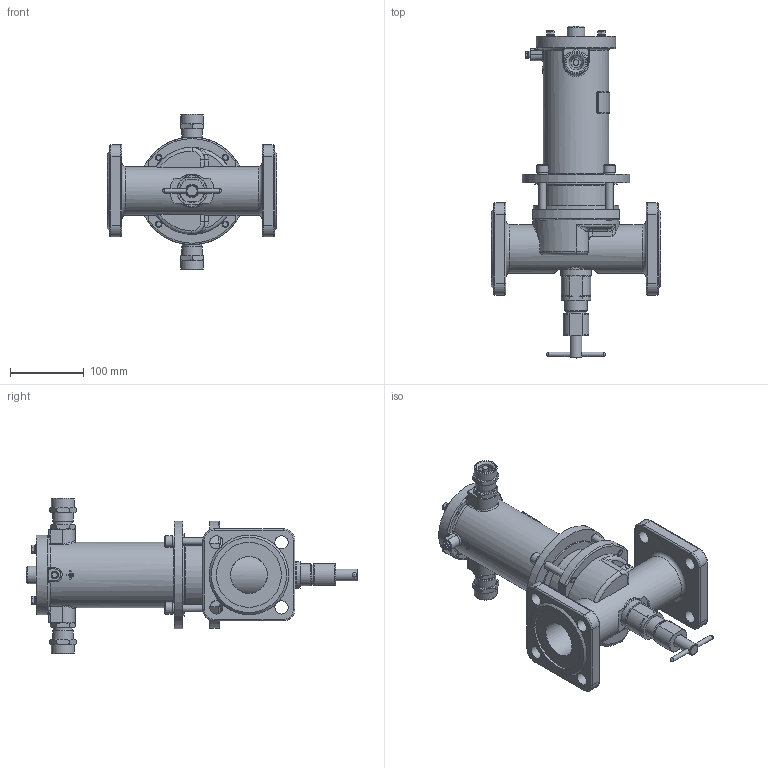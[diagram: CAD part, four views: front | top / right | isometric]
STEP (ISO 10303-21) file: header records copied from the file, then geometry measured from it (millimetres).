
FILE_DESCRIPTION(('STEP AP203'), '1');
FILE_NAME('捇迕-玿 DN50PN25-捔.stp', '2018-11-21T06:36:11', ('u'), ($), 'ASCON STEP Converter 1.3', 'Kompas 3D', '');
FILE_SCHEMA(('CONFIG_CONTROL_DESIGN','SUPPORT_RESOURCE_SCHEMA'));
Length unit declared in the file: millimetre
Products named in the file (1): 14
Bounding box: 230 x 450.5 x 211 mm (x, y, z)
Volume: 1824976.3 mm3; surface area: 445532.3 mm2
Topology: 2 solids, 19 shells, 1979 faces, 5247 edges, 3395 vertices
Faces by surface type: cylinder 1013, plane 729, cone 129, torus 49, bspline 39, extrusion 16, sphere 4
Full cylindrical faces by diameter (mm): 3.5 x2, 4.134 x1, 4.917 x4, 5 x1, 6 x10, 6.5 x4, 8 x8, 8.2 x1, 8.376 x4, 10 x5, 11 x5, 12 x4, 13 x2, 16 x6, 17 x2, 18 x9, 20 x4, 20.9 x1, 22 x2, 22.376 x2, 23 x1, 23.5 x2, 24 x3, 24.5 x2, 26 x4, 26.376 x2, 27.8 x1, 28 x3, 28.5 x2, 30 x2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
Entity records: 76447 total; most frequent: CARTESIAN_POINT 26118, DIRECTION 10940, ORIENTED_EDGE 10440, EDGE_CURVE 5220, AXIS2_PLACEMENT_3D 4203, VERTEX_POINT 3395, VECTOR 2534, LINE 2518
